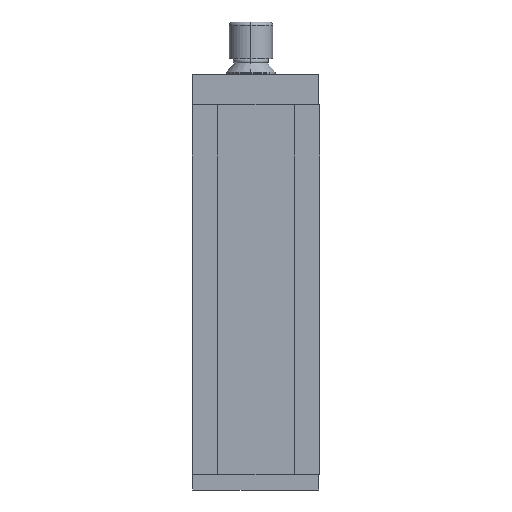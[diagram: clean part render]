
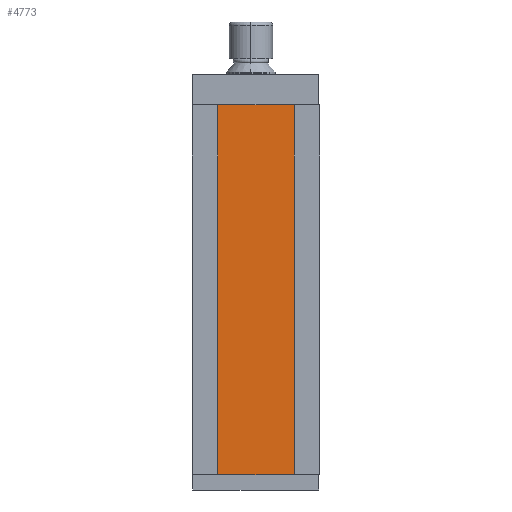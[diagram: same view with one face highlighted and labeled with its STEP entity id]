
A CAD part, front view. The second image highlights one B-rep face of the part: STEP entity #4773.
In plain terms, the highlighted planar face has unit normal (0, -1, 0).
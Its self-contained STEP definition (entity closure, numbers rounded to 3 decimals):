
#2548 = FACE_OUTER_BOUND ( 'NONE', #4769, .T. ) ;
#2549 = DIRECTION ( 'NONE',  ( -1., 0., 0. ) ) ;
#2550 = VECTOR ( 'NONE', #2549, 1000. ) ;
#2551 = CARTESIAN_POINT ( 'NONE',  ( 15.866, -11.5, 72.5 ) ) ;
#2552 = LINE ( 'NONE', #2551, #2550 ) ;
#2554 = DIRECTION ( 'NONE',  ( 0., 0., 1. ) ) ;
#2555 = VECTOR ( 'NONE', #2554, 1000. ) ;
#2556 = CARTESIAN_POINT ( 'NONE',  ( -15.866, -11.5, -72.5 ) ) ;
#2557 = LINE ( 'NONE', #2556, #2555 ) ;
#2573 = CARTESIAN_POINT ( 'NONE',  ( 15.866, -11.5, 72.5 ) ) ;
#2582 = CARTESIAN_POINT ( 'NONE',  ( -15.866, -11.5, 72.5 ) ) ;
#2583 = CARTESIAN_POINT ( 'NONE',  ( -15.866, -11.5, -72.5 ) ) ;
#2584 = DIRECTION ( 'NONE',  ( -1., 0., 0. ) ) ;
#2585 = DIRECTION ( 'NONE',  ( 0., 1., 0. ) ) ;
#2586 = CARTESIAN_POINT ( 'NONE',  ( 15.866, -11.5, -72.5 ) ) ;
#2587 = AXIS2_PLACEMENT_3D ( 'NONE', #2586, #2585, #2584 ) ;
#2588 = PLANE ( 'NONE',  #2587 ) ;
#2619 = CARTESIAN_POINT ( 'NONE',  ( 15.866, -11.5, -72.5 ) ) ;
#2620 = DIRECTION ( 'NONE',  ( 0., 0., 1. ) ) ;
#2621 = VECTOR ( 'NONE', #2620, 1000. ) ;
#2622 = CARTESIAN_POINT ( 'NONE',  ( 15.866, -11.5, -72.5 ) ) ;
#2623 = LINE ( 'NONE', #2622, #2621 ) ;
#2672 = DIRECTION ( 'NONE',  ( -1., 0., 0. ) ) ;
#2673 = VECTOR ( 'NONE', #2672, 1000. ) ;
#2674 = CARTESIAN_POINT ( 'NONE',  ( 15.866, -11.5, -72.5 ) ) ;
#2675 = LINE ( 'NONE', #2674, #2673 ) ;
#4755 = ORIENTED_EDGE ( 'NONE', *, *, #4789, .T. ) ;
#4767 = ORIENTED_EDGE ( 'NONE', *, *, #4770, .T. ) ;
#4768 = EDGE_CURVE ( 'NONE', #4774, #4775, #2557, .T. ) ;
#4769 = EDGE_LOOP ( 'NONE', ( #4767, #4772, #4771, #4755 ) ) ;
#4770 = EDGE_CURVE ( 'NONE', #4785, #4775, #2552, .T. ) ;
#4771 = ORIENTED_EDGE ( 'NONE', *, *, #4832, .F. ) ;
#4772 = ORIENTED_EDGE ( 'NONE', *, *, #4768, .F. ) ;
#4773 = ADVANCED_FACE ( 'Fl�che1', ( #2548 ), #2588, .F. ) ;
#4774 = VERTEX_POINT ( 'NONE', #2583 ) ;
#4775 = VERTEX_POINT ( 'NONE', #2582 ) ;
#4785 = VERTEX_POINT ( 'NONE', #2573 ) ;
#4789 = EDGE_CURVE ( 'NONE', #4790, #4785, #2623, .T. ) ;
#4790 = VERTEX_POINT ( 'NONE', #2619 ) ;
#4832 = EDGE_CURVE ( 'NONE', #4790, #4774, #2675, .T. ) ;
